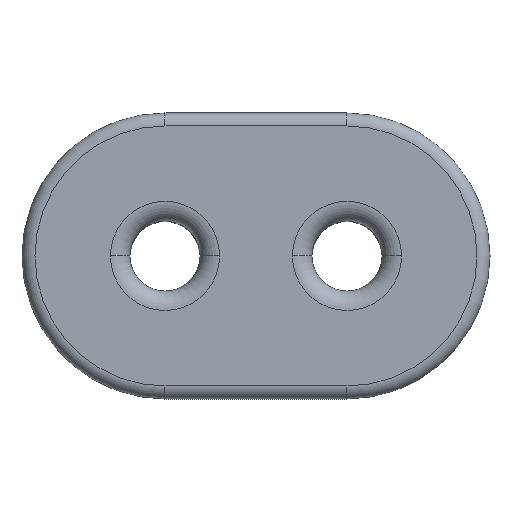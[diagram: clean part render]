
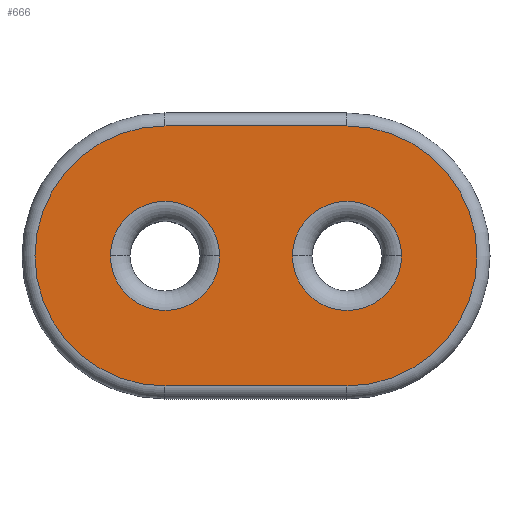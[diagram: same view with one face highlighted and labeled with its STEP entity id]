
A CAD part, top view. The second image highlights one B-rep face of the part: STEP entity #666.
In plain terms, the highlighted planar face has unit normal (0, 0, 1).
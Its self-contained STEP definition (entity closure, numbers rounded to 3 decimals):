
#103=AXIS2_PLACEMENT_3D('Circle Axis2P3D',#101,#102,$) ;
#127=AXIS2_PLACEMENT_3D('Circle Axis2P3D',#125,#126,$) ;
#208=AXIS2_PLACEMENT_3D('Circle Axis2P3D',#206,#207,$) ;
#232=AXIS2_PLACEMENT_3D('Circle Axis2P3D',#230,#231,$) ;
#622=AXIS2_PLACEMENT_3D('Plane Axis2P3D',#619,#620,#621) ;
#635=AXIS2_PLACEMENT_3D('Circle Axis2P3D',#633,#634,$) ;
#649=AXIS2_PLACEMENT_3D('Circle Axis2P3D',#647,#648,$) ;
#98=CARTESIAN_POINT('Vertex',(-18.2,0.,31.2)) ;
#101=CARTESIAN_POINT('Axis2P3D Location',(-14.,0.,31.2)) ;
#105=CARTESIAN_POINT('Vertex',(-9.8,0.,31.2)) ;
#125=CARTESIAN_POINT('Axis2P3D Location',(-14.,0.,31.2)) ;
#203=CARTESIAN_POINT('Vertex',(-4.2,0.,31.2)) ;
#206=CARTESIAN_POINT('Axis2P3D Location',(0.,0.,31.2)) ;
#210=CARTESIAN_POINT('Vertex',(4.2,0.,31.2)) ;
#230=CARTESIAN_POINT('Axis2P3D Location',(0.,0.,31.2)) ;
#619=CARTESIAN_POINT('Axis2P3D Location',(0.,0.,31.2)) ;
#624=CARTESIAN_POINT('Line Origine',(-7.,-10.,31.2)) ;
#628=CARTESIAN_POINT('Vertex',(-14.,-10.,31.2)) ;
#630=CARTESIAN_POINT('Vertex',(0.,-10.,31.2)) ;
#633=CARTESIAN_POINT('Axis2P3D Location',(0.,0.,31.2)) ;
#637=CARTESIAN_POINT('Vertex',(0.,10.,31.2)) ;
#640=CARTESIAN_POINT('Line Origine',(-7.,10.,31.2)) ;
#644=CARTESIAN_POINT('Vertex',(-14.,10.,31.2)) ;
#647=CARTESIAN_POINT('Axis2P3D Location',(-14.,0.,31.2)) ;
#102=DIRECTION('Axis2P3D Direction',(0.,-0.,1.)) ;
#126=DIRECTION('Axis2P3D Direction',(-0.,0.,1.)) ;
#207=DIRECTION('Axis2P3D Direction',(0.,-0.,1.)) ;
#231=DIRECTION('Axis2P3D Direction',(-0.,0.,1.)) ;
#620=DIRECTION('Axis2P3D Direction',(0.,0.,1.)) ;
#621=DIRECTION('Axis2P3D XDirection',(1.,0.,0.)) ;
#625=DIRECTION('Vector Direction',(-1.,0.,0.)) ;
#634=DIRECTION('Axis2P3D Direction',(0.,0.,1.)) ;
#641=DIRECTION('Vector Direction',(1.,0.,0.)) ;
#648=DIRECTION('Axis2P3D Direction',(0.,0.,1.)) ;
#626=VECTOR('Line Direction',#625,1.) ;
#642=VECTOR('Line Direction',#641,1.) ;
#653=ORIENTED_EDGE('',*,*,#632,.T.) ;
#654=ORIENTED_EDGE('',*,*,#639,.T.) ;
#655=ORIENTED_EDGE('',*,*,#646,.T.) ;
#656=ORIENTED_EDGE('',*,*,#651,.T.) ;
#659=ORIENTED_EDGE('',*,*,#234,.F.) ;
#660=ORIENTED_EDGE('',*,*,#212,.F.) ;
#663=ORIENTED_EDGE('',*,*,#129,.F.) ;
#664=ORIENTED_EDGE('',*,*,#107,.F.) ;
#661=FACE_BOUND('',#658,.T.) ;
#665=FACE_BOUND('',#662,.T.) ;
#666=ADVANCED_FACE('\X2\96F64EF651E04F554F53\X0\',(#657,#661,#665),#623,.T.) ;
#104=CIRCLE('generated circle',#103,4.2) ;
#128=CIRCLE('generated circle',#127,4.2) ;
#209=CIRCLE('generated circle',#208,4.2) ;
#233=CIRCLE('generated circle',#232,4.2) ;
#636=CIRCLE('generated circle',#635,10.) ;
#650=CIRCLE('generated circle',#649,10.) ;
#107=EDGE_CURVE('',#99,#106,#104,.T.) ;
#129=EDGE_CURVE('',#106,#99,#128,.T.) ;
#212=EDGE_CURVE('',#204,#211,#209,.T.) ;
#234=EDGE_CURVE('',#211,#204,#233,.T.) ;
#632=EDGE_CURVE('',#629,#631,#627,.F.) ;
#639=EDGE_CURVE('',#631,#638,#636,.T.) ;
#646=EDGE_CURVE('',#638,#645,#643,.F.) ;
#651=EDGE_CURVE('',#645,#629,#650,.T.) ;
#652=EDGE_LOOP('',(#653,#654,#655,#656)) ;
#658=EDGE_LOOP('',(#659,#660)) ;
#662=EDGE_LOOP('',(#663,#664)) ;
#657=FACE_OUTER_BOUND('',#652,.T.) ;
#627=LINE('Line',#624,#626) ;
#643=LINE('Line',#640,#642) ;
#623=PLANE('',#622) ;
#99=VERTEX_POINT('',#98) ;
#106=VERTEX_POINT('',#105) ;
#204=VERTEX_POINT('',#203) ;
#211=VERTEX_POINT('',#210) ;
#629=VERTEX_POINT('',#628) ;
#631=VERTEX_POINT('',#630) ;
#638=VERTEX_POINT('',#637) ;
#645=VERTEX_POINT('',#644) ;
